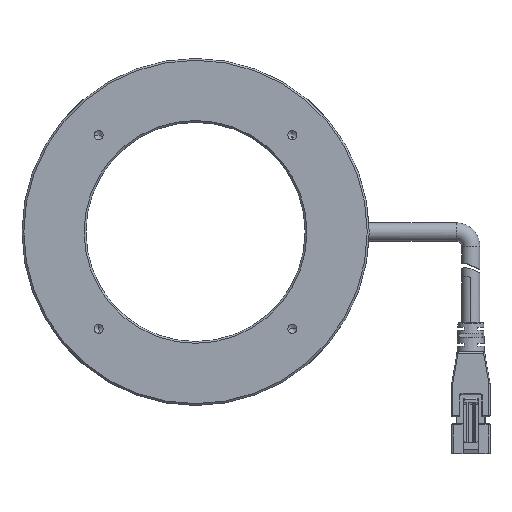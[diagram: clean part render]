
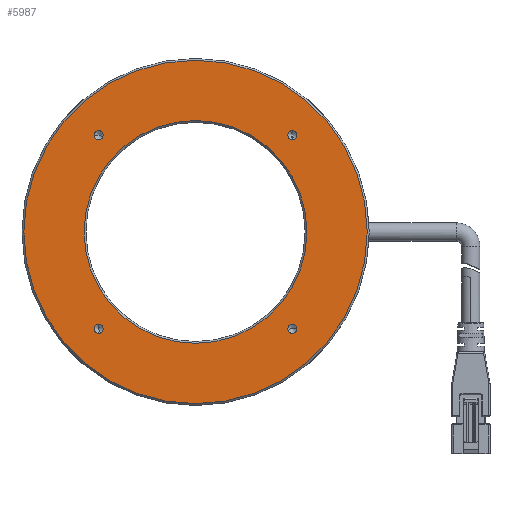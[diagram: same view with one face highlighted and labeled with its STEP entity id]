
A CAD part, top view. The second image highlights one B-rep face of the part: STEP entity #5987.
In plain terms, the highlighted planar face has unit normal (0, 0, 1).
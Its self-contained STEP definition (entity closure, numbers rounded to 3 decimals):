
#1385=CARTESIAN_POINT('',(0.,0.,1.5));
#1386=DIRECTION('',(0.,0.,-1.));
#1387=DIRECTION('',(0.,-1.,0.));
#1388=AXIS2_PLACEMENT_3D('',#1385,#1386,#1387);
#1390=CARTESIAN_POINT('',(0.,0.,1.5));
#1391=DIRECTION('',(0.,0.,-1.));
#1392=DIRECTION('',(0.,1.,0.));
#1393=AXIS2_PLACEMENT_3D('',#1390,#1391,#1392);
#1395=CARTESIAN_POINT('',(26.517,-26.517,1.5));
#1396=DIRECTION('',(0.,0.,-1.));
#1397=DIRECTION('',(1.,0.,0.));
#1398=AXIS2_PLACEMENT_3D('',#1395,#1396,#1397);
#1400=CARTESIAN_POINT('',(26.517,-26.517,1.5));
#1401=DIRECTION('',(0.,0.,-1.));
#1402=DIRECTION('',(-1.,0.,0.));
#1403=AXIS2_PLACEMENT_3D('',#1400,#1401,#1402);
#1405=CARTESIAN_POINT('',(26.517,26.517,1.5));
#1406=DIRECTION('',(0.,0.,-1.));
#1407=DIRECTION('',(0.,1.,0.));
#1408=AXIS2_PLACEMENT_3D('',#1405,#1406,#1407);
#1410=CARTESIAN_POINT('',(26.517,26.517,1.5));
#1411=DIRECTION('',(0.,0.,-1.));
#1412=DIRECTION('',(0.,-1.,0.));
#1413=AXIS2_PLACEMENT_3D('',#1410,#1411,#1412);
#1415=CARTESIAN_POINT('',(-26.517,26.517,1.5));
#1416=DIRECTION('',(0.,0.,-1.));
#1417=DIRECTION('',(-1.,0.,0.));
#1418=AXIS2_PLACEMENT_3D('',#1415,#1416,#1417);
#1420=CARTESIAN_POINT('',(-26.517,26.517,1.5));
#1421=DIRECTION('',(0.,0.,-1.));
#1422=DIRECTION('',(1.,0.,0.));
#1423=AXIS2_PLACEMENT_3D('',#1420,#1421,#1422);
#1425=CARTESIAN_POINT('',(-26.517,-26.517,1.5));
#1426=DIRECTION('',(0.,0.,-1.));
#1427=DIRECTION('',(0.,-1.,0.));
#1428=AXIS2_PLACEMENT_3D('',#1425,#1426,#1427);
#1430=CARTESIAN_POINT('',(-26.517,-26.517,1.5));
#1431=DIRECTION('',(0.,0.,-1.));
#1432=DIRECTION('',(0.,1.,0.));
#1433=AXIS2_PLACEMENT_3D('',#1430,#1431,#1432);
#1435=CARTESIAN_POINT('',(0.,0.,1.5));
#1436=DIRECTION('',(0.,0.,1.));
#1437=DIRECTION('',(0.,-1.,0.));
#1438=AXIS2_PLACEMENT_3D('',#1435,#1436,#1437);
#1440=CARTESIAN_POINT('',(0.,0.,1.5));
#1441=DIRECTION('',(0.,0.,1.));
#1442=DIRECTION('',(0.,1.,0.));
#1443=AXIS2_PLACEMENT_3D('',#1440,#1441,#1442);
#3755=CARTESIAN_POINT('',(0.,47.,1.5));
#3756=CARTESIAN_POINT('',(0.,-47.,1.5));
#3757=VERTEX_POINT('',#3755);
#3758=VERTEX_POINT('',#3756);
#3759=CARTESIAN_POINT('',(-26.517,-25.267,1.5));
#3760=CARTESIAN_POINT('',(-26.517,-27.767,1.5));
#3761=VERTEX_POINT('',#3759);
#3762=VERTEX_POINT('',#3760);
#3763=CARTESIAN_POINT('',(-25.267,26.517,1.5));
#3764=CARTESIAN_POINT('',(-27.767,26.517,1.5));
#3765=VERTEX_POINT('',#3763);
#3766=VERTEX_POINT('',#3764);
#3767=CARTESIAN_POINT('',(26.517,25.267,1.5));
#3768=CARTESIAN_POINT('',(26.517,27.767,1.5));
#3769=VERTEX_POINT('',#3767);
#3770=VERTEX_POINT('',#3768);
#3771=CARTESIAN_POINT('',(25.267,-26.517,1.5));
#3772=CARTESIAN_POINT('',(27.767,-26.517,1.5));
#3773=VERTEX_POINT('',#3771);
#3774=VERTEX_POINT('',#3772);
#3775=CARTESIAN_POINT('',(0.,30.5,1.5));
#3776=CARTESIAN_POINT('',(0.,-30.5,1.5));
#3777=VERTEX_POINT('',#3775);
#3778=VERTEX_POINT('',#3776);
#5948=CARTESIAN_POINT('',(0.,0.,1.5));
#5949=DIRECTION('',(0.,0.,-1.));
#5950=DIRECTION('',(0.,1.,0.));
#5951=AXIS2_PLACEMENT_3D('',#5948,#5949,#5950);
#5952=PLANE('',#5951);
#5953=ORIENTED_EDGE('',*,*,#5943,.F.);
#5954=ORIENTED_EDGE('',*,*,#5927,.F.);
#5955=EDGE_LOOP('',(#5953,#5954));
#5956=FACE_OUTER_BOUND('',#5955,.F.);
#5958=ORIENTED_EDGE('',*,*,#5957,.F.);
#5960=ORIENTED_EDGE('',*,*,#5959,.F.);
#5961=EDGE_LOOP('',(#5958,#5960));
#5962=FACE_BOUND('',#5961,.F.);
#5964=ORIENTED_EDGE('',*,*,#5963,.F.);
#5966=ORIENTED_EDGE('',*,*,#5965,.F.);
#5967=EDGE_LOOP('',(#5964,#5966));
#5968=FACE_BOUND('',#5967,.F.);
#5970=ORIENTED_EDGE('',*,*,#5969,.F.);
#5972=ORIENTED_EDGE('',*,*,#5971,.F.);
#5973=EDGE_LOOP('',(#5970,#5972));
#5974=FACE_BOUND('',#5973,.F.);
#5976=ORIENTED_EDGE('',*,*,#5975,.F.);
#5978=ORIENTED_EDGE('',*,*,#5977,.F.);
#5979=EDGE_LOOP('',(#5976,#5978));
#5980=FACE_BOUND('',#5979,.F.);
#5982=ORIENTED_EDGE('',*,*,#5981,.F.);
#5984=ORIENTED_EDGE('',*,*,#5983,.F.);
#5985=EDGE_LOOP('',(#5982,#5984));
#5986=FACE_BOUND('',#5985,.F.);
#5987=ADVANCED_FACE('',(#5956,#5962,#5968,#5974,#5980,#5986),#5952,.F.);
#1389=CIRCLE('',#1388,30.5);
#1394=CIRCLE('',#1393,30.5);
#1399=CIRCLE('',#1398,1.25);
#1404=CIRCLE('',#1403,1.25);
#1409=CIRCLE('',#1408,1.25);
#1414=CIRCLE('',#1413,1.25);
#1419=CIRCLE('',#1418,1.25);
#1424=CIRCLE('',#1423,1.25);
#1429=CIRCLE('',#1428,1.25);
#1434=CIRCLE('',#1433,1.25);
#1439=CIRCLE('',#1438,47.);
#1444=CIRCLE('',#1443,47.);
#5927=EDGE_CURVE('',#3757,#3758,#1444,.T.);
#5943=EDGE_CURVE('',#3758,#3757,#1439,.T.);
#5957=EDGE_CURVE('',#3774,#3773,#1399,.T.);
#5959=EDGE_CURVE('',#3773,#3774,#1404,.T.);
#5963=EDGE_CURVE('',#3770,#3769,#1409,.T.);
#5965=EDGE_CURVE('',#3769,#3770,#1414,.T.);
#5969=EDGE_CURVE('',#3766,#3765,#1419,.T.);
#5971=EDGE_CURVE('',#3765,#3766,#1424,.T.);
#5975=EDGE_CURVE('',#3762,#3761,#1429,.T.);
#5977=EDGE_CURVE('',#3761,#3762,#1434,.T.);
#5981=EDGE_CURVE('',#3778,#3777,#1389,.T.);
#5983=EDGE_CURVE('',#3777,#3778,#1394,.T.);
